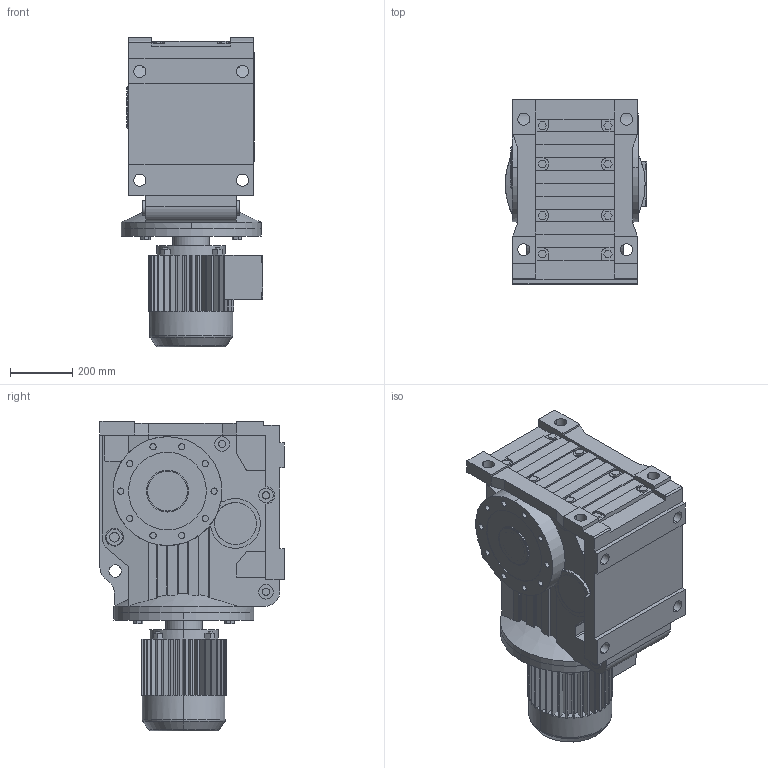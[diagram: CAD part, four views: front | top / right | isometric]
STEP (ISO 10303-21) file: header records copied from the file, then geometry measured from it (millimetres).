
FILE_DESCRIPTION(('Open CASCADE Model'),'2;1');
FILE_NAME('Open CASCADE Shape Model','2021-07-20T14:15:15',('Author'),( 'Open CASCADE'),'Open CASCADE STEP processor 6.3','Open CASCADE 6.3' ,'Unknown');
FILE_SCHEMA(('AUTOMOTIVE_DESIGN_CC2 { 1 2 10303 214 -1 1 5 4 }'));
Length unit declared in the file: millimetre
Products named in the file (4): 1_KA127DV132M-A; KA127‵157_127.step; 萇儂_450-DV132M-381-493-275-230.step; す瑩諾陑粣K_127.step
Assembly tree (3 placements, depth 2):
  1_KA127DV132M-A
    KA127‵157_127.step
    萇儂_450-DV132M-381-493-275-230.step
    す瑩諾陑粣K_127.step
Bounding box: 455.5 x 592 x 996 mm (x, y, z)
Volume: 127578548.8 mm3; surface area: 3577252 mm2
Topology: 3 solids, 3 shells, 902 faces, 2362 edges, 1541 vertices
Faces by surface type: plane 596, cylinder 298, cone 4, torus 4
Entity records: 64204 total; most frequent: CARTESIAN_POINT 19568, DIRECTION 7598, ORIENTED_EDGE 4724, PCURVE 4724, DEFINITIONAL_REPRESENTATION 4724, LINE 3993, VECTOR 3993, EDGE_CURVE 2362
